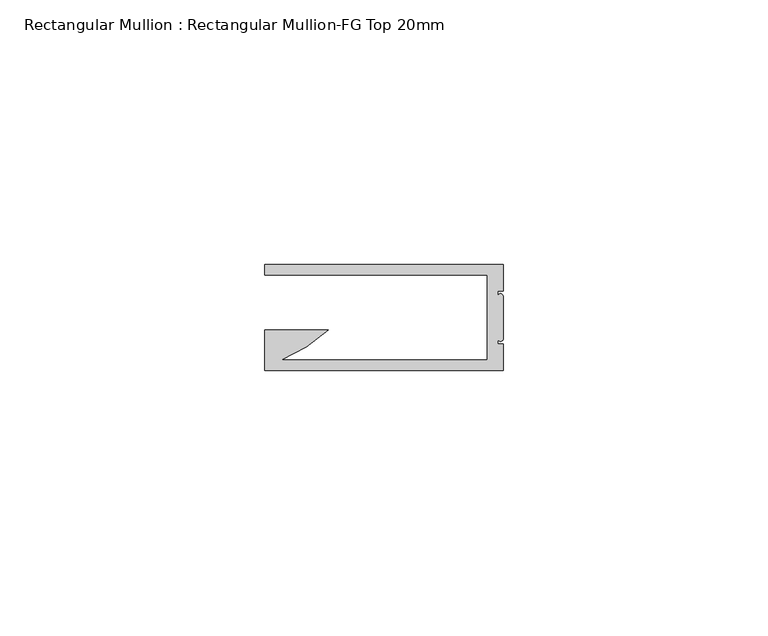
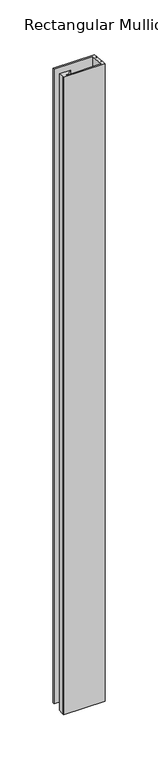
"""IFC4 building model written with IfcOpenShell, lengths in millimetres: member geometry, Rectangular Mullion : Rectangular Mullion-FG Top 20mm."""

from ifc_helpers import new_model, si_unit, frame, origin, place, context, project, spatial, ellipse_curve, source, transform, mapped, element, save
from ifc_brep_helpers import plane_surface, cylinder_surface, advanced_brep


def rectangular_mullion_rectangular_mullion_fg_top_20mm_16574b92(model_context):
    return source(origin(), model_context, "Body", "AdvancedBrep", [
        advanced_brep(
        [(0.0, -0.002, 0.0001846), (0.0, -5.002, 0.4617555), (0.0, -5.002, -729.2163909), (0.0, -0.002, -728.75482), (-45.0, -0.002, 0.0001846), (-45.0, -0.002, -728.75482), (-45.0, -2.002, 0.184813), (-45.0, -2.002, -728.9394483), (-3.0, -2.002, 0.184813), (-3.0, -2.002, -728.9394483), (-3.0, -18.002, 1.6618398), (-3.0, -18.002, -730.4164752), (-41.8651614, -18.002, 1.6618398), (-41.8651614, -18.002, -730.4164752), (-33.0474856, -12.382, 1.1430341), (-33.0474856, -12.382, -729.8976695), (-45.0, -12.382, 1.1430341), (-45.0, -12.382, -729.8976695), (-45.0, -18.002, 1.6618398), (-45.0, -18.002, -730.4164752), (-45.0, -20.002, 1.8464682), (-45.0, -20.002, -730.6011035), (0.0, -20.002, 1.8464682), (0.0, -20.002, -730.6011035), (0.0, -15.002, 1.3848973), (0.0, -15.002, -730.1395326), (-1.0, -15.002, 1.3848973), (-1.0, -15.002, -730.1395326), (-1.0, -14.002, 1.2925831), (-1.0, -14.002, -730.0472185), (0.0, -14.002, 1.2925831), (0.0, -14.002, -730.0472185), (0.0, -6.002, 0.5540697), (0.0, -6.002, -729.3087051), (-1.0, -6.002, 0.5540697), (-1.0, -6.002, -729.3087051), (-1.0, -5.002, 0.4617555), (-1.0, -5.002, -729.2163909)],
        [
            (0, 1),
            (1, 2),
            (2, 3),
            (3, 0),
            (4, 0),
            (3, 5),
            (5, 4),
            (6, 4),
            (5, 7),
            (7, 6),
            (8, 6),
            (7, 9),
            (9, 8),
            (10, 8),
            (9, 11),
            (11, 10),
            (12, 10),
            (11, 13),
            (13, 12),
            (14, 12, ellipse_curve(frame((-52.4160523, 8.2795369, -0.7643186), z_axis=(0.0, -0.09192332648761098, -0.9957660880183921), x_axis=(0.0, -0.9957660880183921, 0.09192332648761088)), 28.4407348, 28.3203192)),
            (13, 15, ellipse_curve(frame((-52.4160523, 8.2795369, -727.9903167), z_axis=(0.0, -0.09192332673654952, 0.9957660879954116), x_axis=(0.0, 0.9957660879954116, 0.09192332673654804)), 28.4407348, 28.3203192)),
            (15, 14),
            (16, 14),
            (15, 17),
            (17, 16),
            (18, 16),
            (17, 19),
            (19, 18),
            (20, 18),
            (19, 21),
            (21, 20),
            (22, 20),
            (21, 23),
            (23, 22),
            (24, 22),
            (23, 25),
            (25, 24),
            (26, 24),
            (25, 27),
            (27, 26),
            (28, 26),
            (27, 29),
            (29, 28),
            (30, 28, ellipse_curve(frame((-0.5, -14.002, 1.2925831), z_axis=(0.0, -0.09192332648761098, -0.9957660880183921), x_axis=(0.0, -0.9957660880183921, 0.09192332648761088)), 0.502126, 0.5)),
            (29, 31, ellipse_curve(frame((-0.5, -14.002, -730.0472185), z_axis=(0.0, -0.09192332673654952, 0.9957660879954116), x_axis=(0.0, 0.9957660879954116, 0.09192332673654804)), 0.502126, 0.5)),
            (31, 30),
            (32, 30),
            (31, 33),
            (33, 32),
            (34, 32, ellipse_curve(frame((-0.5, -6.002, 0.5540697), z_axis=(0.0, -0.09192332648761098, -0.9957660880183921), x_axis=(0.0, -0.9957660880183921, 0.09192332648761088)), 0.502126, 0.5)),
            (33, 35, ellipse_curve(frame((-0.5, -6.002, -729.3087051), z_axis=(0.0, -0.09192332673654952, 0.9957660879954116), x_axis=(0.0, 0.9957660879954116, 0.09192332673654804)), 0.502126, 0.5)),
            (35, 34),
            (36, 34),
            (35, 37),
            (37, 36),
            (1, 36),
            (37, 2),
        ],
        [
            plane_surface(frame((0.0, -5.002, 0.0), z_axis=(1.0, 0.0, 0.0), x_axis=(0.0, 0.0, -1.0))),
            plane_surface(frame((0.0, -0.002, 0.0), z_axis=(0.0, 1.0, 0.0), x_axis=(0.0, 0.0, -1.0))),
            plane_surface(frame((-45.0, -0.002, 0.0), z_axis=(-1.0, 0.0, 0.0), x_axis=(0.0, 0.0, -1.0))),
            plane_surface(frame((-45.0, -2.002, 0.0), z_axis=(0.0, -1.0, 0.0), x_axis=(0.0, 0.0, -1.0))),
            plane_surface(frame((-3.0, -2.002, 0.0), z_axis=(-1.0, 0.0, 0.0), x_axis=(0.0, 0.0, -1.0))),
            plane_surface(frame((-3.0, -18.002, 0.0), z_axis=(0.0, 1.0, 0.0), x_axis=(0.0, 0.0, -1.0))),
            cylinder_surface(frame((-52.4160523, 8.2795369, 0.0), z_axis=(0.0, 0.0, 1.0), x_axis=(1.0, 0.0, 0.0)), 28.3203192),
            plane_surface(frame((-33.0474856, -12.382, 0.0), z_axis=(0.0, 1.0, 0.0), x_axis=(0.0, 0.0, -1.0))),
            plane_surface(frame((-45.0, -12.382, 0.0), z_axis=(-1.0, 0.0, 0.0), x_axis=(0.0, 0.0, -1.0))),
            plane_surface(frame((-45.0, -18.002, 0.0), z_axis=(-1.0, 0.0, 0.0), x_axis=(0.0, 0.0, -1.0))),
            plane_surface(frame((-45.0, -20.002, 0.0), z_axis=(0.0, -1.0, 0.0), x_axis=(0.0, 0.0, -1.0))),
            plane_surface(frame((0.0, -20.002, 0.0), z_axis=(1.0, 0.0, 0.0), x_axis=(0.0, 0.0, -1.0))),
            plane_surface(frame((0.0, -15.002, 0.0), z_axis=(0.0, 1.0, 0.0), x_axis=(0.0, 0.0, -1.0))),
            plane_surface(frame((-1.0, -15.002, 0.0), z_axis=(1.0, 0.0, 0.0), x_axis=(0.0, 0.0, -1.0))),
            cylinder_surface(frame((-0.5, -14.002, 0.0), z_axis=(0.0, 0.0, 1.0), x_axis=(1.0, 0.0, 0.0)), 0.5),
            plane_surface(frame((0.0, -14.002, 0.0), z_axis=(1.0, 0.0, 0.0), x_axis=(0.0, 0.0, -1.0))),
            cylinder_surface(frame((-0.5, -6.002, 0.0), z_axis=(0.0, 0.0, 1.0), x_axis=(1.0, 0.0, 0.0)), 0.5),
            plane_surface(frame((-1.0, -6.002, 0.0), z_axis=(1.0, 0.0, 0.0), x_axis=(0.0, 0.0, -1.0))),
            plane_surface(frame((-1.0, -5.002, 0.0), z_axis=(0.0, -1.0, 0.0), x_axis=(0.0, 0.0, -1.0))),
            plane_surface(frame((-304.8, 0.0, 0.0), z_axis=(0.0, 0.09192332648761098, 0.9957660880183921), x_axis=(0.0, 0.9957660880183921, -0.09192332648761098))),
            plane_surface(frame((91395.0, 91048.7145366, 7676.3324992), z_axis=(0.0, 0.09192332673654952, -0.9957660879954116), x_axis=(-1.0, 0.0, 0.0))),
        ],
        [
            (0, [[1, 2, 3, 4]]),
            (1, [[5, -4, 6, 7]]),
            (2, [[8, -7, 9, 10]]),
            (3, [[11, -10, 12, 13]]),
            (4, [[14, -13, 15, 16]]),
            (5, [[17, -16, 18, 19]]),
            (6, [[20, -19, 21, 22]]),
            (7, [[23, -22, 24, 25]]),
            (8, [[26, -25, 27, 28]]),
            (9, [[29, -28, 30, 31]]),
            (10, [[32, -31, 33, 34]]),
            (11, [[35, -34, 36, 37]]),
            (12, [[38, -37, 39, 40]]),
            (13, [[41, -40, 42, 43]]),
            (14, [[44, -43, 45, 46]]),
            (15, [[47, -46, 48, 49]]),
            (16, [[50, -49, 51, 52]]),
            (17, [[53, -52, 54, 55]]),
            (18, [[56, -55, 57, -2]]),
            (19, [[-1, -5, -8, -11, -14, -17, -20, -23, -26, -29, -32, -35, -38, -41, -44, -47, -50, -53, -56]]),
            (20, [[-57, -54, -51, -48, -45, -42, -39, -36, -33, -30, -27, -24, -21, -18, -15, -12, -9, -6, -3]]),
        ],
    ),
    ])


if __name__ == "__main__":
    model = new_model("IFC4")
    model_context = context("Model", 3, world=origin())
    ifc_project = project(units=[si_unit("LENGTHUNIT", "METRE", prefix="MILLI")], contexts=[model_context])
    site = spatial("IfcSite", under=ifc_project)
    building = spatial("IfcBuilding", under=site)
    placement = place(None, origin())
    rectangular_mullion_rectangular_mullion_fg_top_20mm_shape = rectangular_mullion_rectangular_mullion_fg_top_20mm_16574b92(model_context)
    element("IfcMember", 1, ObjectType="Rectangular Mullion : Rectangular Mullion-FG Top 20mm", at=placement, inside=building, context=model_context, shape_type="MappedRepresentation", body=[
        mapped(rectangular_mullion_rectangular_mullion_fg_top_20mm_shape, transform((0.0, 0.0, 0.0), x_axis=(1.0, 0.0, 0.0), y_axis=(0.0, 1.0, 0.0), z_axis=(0.0, 0.0, 1.0))),
    ])
    save(model, "model.ifc")
